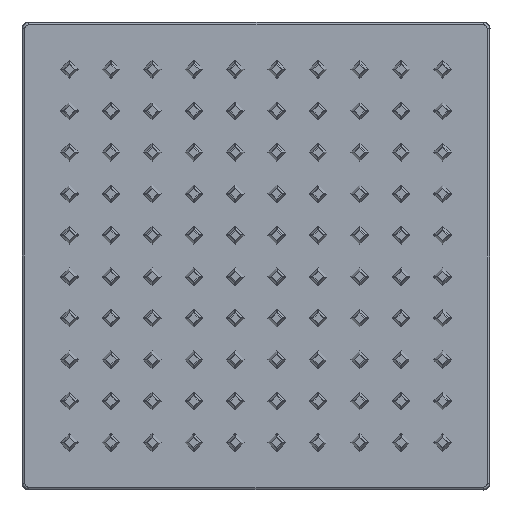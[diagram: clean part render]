
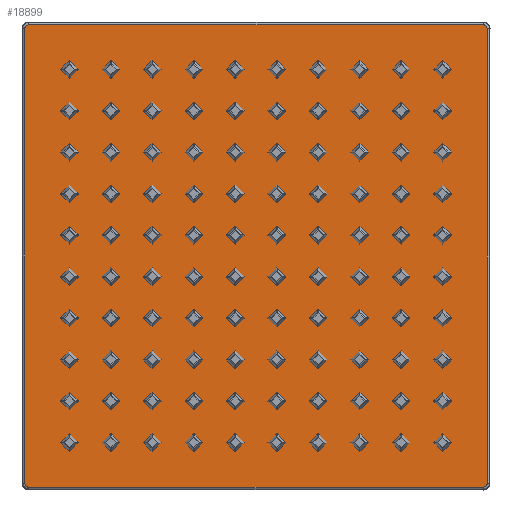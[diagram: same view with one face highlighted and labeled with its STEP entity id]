
A CAD part, front view. The second image highlights one B-rep face of the part: STEP entity #18899.
In plain terms, the highlighted planar face has unit normal (0, -1, 0) as drawn and (0, 1, 0) by its records, which use the part's own axes.
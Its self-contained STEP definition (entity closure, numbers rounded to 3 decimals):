
#54 = CARTESIAN_POINT ( 'NONE',  ( 0., 10., 0. ) ) ;
#265 = ORIENTED_EDGE ( 'NONE', *, *, #28240, .T. ) ;
#813 = CARTESIAN_POINT ( 'NONE',  ( 100.364, 10., 98.834 ) ) ;
#978 = ORIENTED_EDGE ( 'NONE', *, *, #3806, .T. ) ;
#1629 = CARTESIAN_POINT ( 'NONE',  ( -100.012, 10., 99.682 ) ) ;
#1954 = LINE ( 'NONE', #14743, #7537 ) ;
#2343 = ORIENTED_EDGE ( 'NONE', *, *, #7860, .T. ) ;
#2702 = CARTESIAN_POINT ( 'NONE',  ( 98.6, 10., -100.364 ) ) ;
#3370 = VERTEX_POINT ( 'NONE', #17641 ) ;
#3521 = CARTESIAN_POINT ( 'NONE',  ( -98.6, 10., -100.364 ) ) ;
#3806 = EDGE_CURVE ( 'NONE', #3370, #24932, #14082, .T. ) ;
#3865 = VECTOR ( 'NONE', #22275, 1000. ) ;
#4687 = VERTEX_POINT ( 'NONE', #8030 ) ;
#4697 = VERTEX_POINT ( 'NONE', #6682 ) ;
#5206 = CARTESIAN_POINT ( 'NONE',  ( 100.012, 10., -99.682 ) ) ;
#5298 = CARTESIAN_POINT ( 'NONE',  ( -98.6, 10., -100.364 ) ) ;
#5366 = CARTESIAN_POINT ( 'NONE',  ( 99.491, 10., -100.14 ) ) ;
#5525 = CARTESIAN_POINT ( 'NONE',  ( 100.14, 10., -99.491 ) ) ;
#5832 = CARTESIAN_POINT ( 'NONE',  ( 100.364, 10., 98.6 ) ) ;
#6682 = CARTESIAN_POINT ( 'NONE',  ( 98.6, 10., -100.364 ) ) ;
#6731 = CARTESIAN_POINT ( 'NONE',  ( 99.059, 10., 100.319 ) ) ;
#7537 = VECTOR ( 'NONE', #15081, 1000. ) ;
#7860 = EDGE_CURVE ( 'NONE', #18595, #15160, #1954, .T. ) ;
#7977 = VECTOR ( 'NONE', #19440, 1000. ) ;
#8030 = CARTESIAN_POINT ( 'NONE',  ( 100.364, 10., -98.6 ) ) ;
#8107 = CARTESIAN_POINT ( 'NONE',  ( -100.013, 10., -99.682 ) ) ;
#8215 = CARTESIAN_POINT ( 'NONE',  ( -100.364, 10., -98.6 ) ) ;
#8318 = CARTESIAN_POINT ( 'NONE',  ( 98.834, 10., -100.364 ) ) ;
#8934 = B_SPLINE_CURVE_WITH_KNOTS ( 'NONE', 3,
 ( #19242, #16263, #29427, #21919, #1629, #16764, #26920, #14260, #32078, #9256 ),
 .UNSPECIFIED., .F., .F.,
 ( 4, 2, 2, 2, 4 ),
 ( 0., 0.25, 0.5, 0.75, 1. ),
 .UNSPECIFIED. ) ;
#9256 = CARTESIAN_POINT ( 'NONE',  ( -98.6, 10., 100.364 ) ) ;
#9791 = LINE ( 'NONE', #30116, #3865 ) ;
#11094 = CARTESIAN_POINT ( 'NONE',  ( 98.6, 10., 100.364 ) ) ;
#11626 = CARTESIAN_POINT ( 'NONE',  ( 0., 10., -100.364 ) ) ;
#12591 = CARTESIAN_POINT ( 'NONE',  ( -99.491, 10., -100.14 ) ) ;
#13478 = CARTESIAN_POINT ( 'NONE',  ( 100.319, 10., -99.059 ) ) ;
#13546 = ORIENTED_EDGE ( 'NONE', *, *, #24299, .T. ) ;
#13600 = CARTESIAN_POINT ( 'NONE',  ( 100.364, 10., 98.6 ) ) ;
#14082 = LINE ( 'NONE', #19216, #19411 ) ;
#14260 = CARTESIAN_POINT ( 'NONE',  ( -99.059, 10., 100.319 ) ) ;
#14743 = CARTESIAN_POINT ( 'NONE',  ( -100.364, 10., 0. ) ) ;
#14773 = ORIENTED_EDGE ( 'NONE', *, *, #27511, .T. ) ;
#15081 = DIRECTION ( 'NONE',  ( 0., 0., 1. ) ) ;
#15160 = VERTEX_POINT ( 'NONE', #24727 ) ;
#15329 = CARTESIAN_POINT ( 'NONE',  ( 99.059, 10., -100.319 ) ) ;
#16121 = CARTESIAN_POINT ( 'NONE',  ( 98.6, 10., 100.364 ) ) ;
#16263 = CARTESIAN_POINT ( 'NONE',  ( -100.364, 10., 98.834 ) ) ;
#16764 = CARTESIAN_POINT ( 'NONE',  ( -99.682, 10., 100.013 ) ) ;
#17047 = CARTESIAN_POINT ( 'NONE',  ( 100.319, 10., 99.059 ) ) ;
#17066 = EDGE_CURVE ( 'NONE', #4697, #27782, #17290, .T. ) ;
#17290 = LINE ( 'NONE', #11626, #7977 ) ;
#17641 = CARTESIAN_POINT ( 'NONE',  ( -98.6, 10., 100.364 ) ) ;
#17763 = CARTESIAN_POINT ( 'NONE',  ( -100.364, 10., -98.834 ) ) ;
#17921 = CARTESIAN_POINT ( 'NONE',  ( -100.364, 10., -98.6 ) ) ;
#18595 = VERTEX_POINT ( 'NONE', #8215 ) ;
#18899 = ADVANCED_FACE ( 'NONE', ( #22676 ), #24671, .T. ) ;
#19216 = CARTESIAN_POINT ( 'NONE',  ( 0., 10., 100.364 ) ) ;
#19242 = CARTESIAN_POINT ( 'NONE',  ( -100.364, 10., 98.6 ) ) ;
#19411 = VECTOR ( 'NONE', #32224, 1000. ) ;
#19440 = DIRECTION ( 'NONE',  ( -1., 0., 0. ) ) ;
#20069 = VERTEX_POINT ( 'NONE', #5832 ) ;
#20255 = CARTESIAN_POINT ( 'NONE',  ( -100.14, 10., -99.491 ) ) ;
#20563 = EDGE_CURVE ( 'NONE', #20069, #4687, #9791, .T. ) ;
#21191 = ORIENTED_EDGE ( 'NONE', *, *, #17066, .T. ) ;
#21919 = CARTESIAN_POINT ( 'NONE',  ( -100.14, 10., 99.491 ) ) ;
#22180 = EDGE_LOOP ( 'NONE', ( #22769, #14773, #21191, #13546, #2343, #30646, #978, #265 ) ) ;
#22275 = DIRECTION ( 'NONE',  ( 0., 0., -1. ) ) ;
#22676 = FACE_OUTER_BOUND ( 'NONE', #22180, .T. ) ;
#22769 = ORIENTED_EDGE ( 'NONE', *, *, #20563, .T. ) ;
#22929 = CARTESIAN_POINT ( 'NONE',  ( -100.319, 10., -99.059 ) ) ;
#23461 = AXIS2_PLACEMENT_3D ( 'NONE', #54, #32837, #32676 ) ;
#23469 = CARTESIAN_POINT ( 'NONE',  ( 99.682, 10., -100.013 ) ) ;
#24299 = EDGE_CURVE ( 'NONE', #27782, #18595, #29893, .T. ) ;
#24528 = B_SPLINE_CURVE_WITH_KNOTS ( 'NONE', 3,
 ( #11094, #28763, #6731, #29881, #28931, #32202, #32036, #17047, #813, #13600 ),
 .UNSPECIFIED., .F., .F.,
 ( 4, 2, 2, 2, 4 ),
 ( 0., 0.25, 0.5, 0.75, 1. ),
 .UNSPECIFIED. ) ;
#24671 = PLANE ( 'NONE',  #23461 ) ;
#24727 = CARTESIAN_POINT ( 'NONE',  ( -100.364, 10., 98.6 ) ) ;
#24932 = VERTEX_POINT ( 'NONE', #16121 ) ;
#25591 = CARTESIAN_POINT ( 'NONE',  ( -98.834, 10., -100.364 ) ) ;
#25760 = CARTESIAN_POINT ( 'NONE',  ( -99.682, 10., -100.012 ) ) ;
#26920 = CARTESIAN_POINT ( 'NONE',  ( -99.491, 10., 100.14 ) ) ;
#27384 = B_SPLINE_CURVE_WITH_KNOTS ( 'NONE', 3,
 ( #28156, #31150, #13478, #5525, #5206, #23469, #5366, #15329, #8318, #2702 ),
 .UNSPECIFIED., .F., .F.,
 ( 4, 2, 2, 2, 4 ),
 ( 0., 0.25, 0.5, 0.75, 1. ),
 .UNSPECIFIED. ) ;
#27511 = EDGE_CURVE ( 'NONE', #4687, #4697, #27384, .T. ) ;
#27782 = VERTEX_POINT ( 'NONE', #3521 ) ;
#28156 = CARTESIAN_POINT ( 'NONE',  ( 100.364, 10., -98.6 ) ) ;
#28240 = EDGE_CURVE ( 'NONE', #24932, #20069, #24528, .T. ) ;
#28763 = CARTESIAN_POINT ( 'NONE',  ( 98.834, 10., 100.364 ) ) ;
#28931 = CARTESIAN_POINT ( 'NONE',  ( 99.682, 10., 100.012 ) ) ;
#29427 = CARTESIAN_POINT ( 'NONE',  ( -100.319, 10., 99.059 ) ) ;
#29881 = CARTESIAN_POINT ( 'NONE',  ( 99.491, 10., 100.14 ) ) ;
#29893 = B_SPLINE_CURVE_WITH_KNOTS ( 'NONE', 3,
 ( #5298, #25591, #30749, #12591, #25760, #8107, #20255, #22929, #17763, #17921 ),
 .UNSPECIFIED., .F., .F.,
 ( 4, 2, 2, 2, 4 ),
 ( 0., 0.25, 0.5, 0.75, 1. ),
 .UNSPECIFIED. ) ;
#30021 = EDGE_CURVE ( 'NONE', #15160, #3370, #8934, .T. ) ;
#30116 = CARTESIAN_POINT ( 'NONE',  ( 100.364, 10., 0. ) ) ;
#30646 = ORIENTED_EDGE ( 'NONE', *, *, #30021, .T. ) ;
#30749 = CARTESIAN_POINT ( 'NONE',  ( -99.059, 10., -100.319 ) ) ;
#31150 = CARTESIAN_POINT ( 'NONE',  ( 100.364, 10., -98.834 ) ) ;
#32036 = CARTESIAN_POINT ( 'NONE',  ( 100.14, 10., 99.491 ) ) ;
#32078 = CARTESIAN_POINT ( 'NONE',  ( -98.834, 10., 100.364 ) ) ;
#32202 = CARTESIAN_POINT ( 'NONE',  ( 100.013, 10., 99.682 ) ) ;
#32224 = DIRECTION ( 'NONE',  ( 1., 0., 0. ) ) ;
#32676 = DIRECTION ( 'NONE',  ( 0., 0., 1. ) ) ;
#32837 = DIRECTION ( 'NONE',  ( 0., 1., 0. ) ) ;
